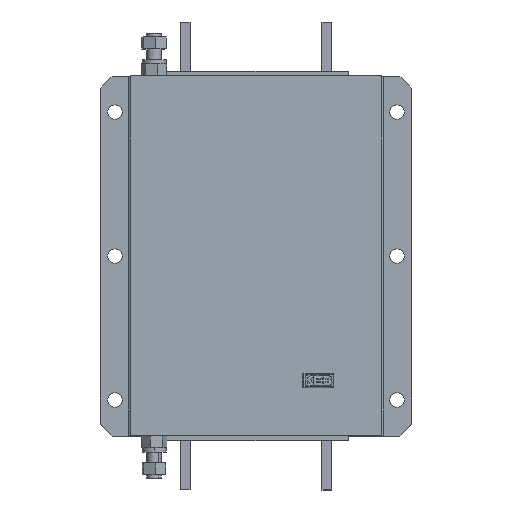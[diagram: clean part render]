
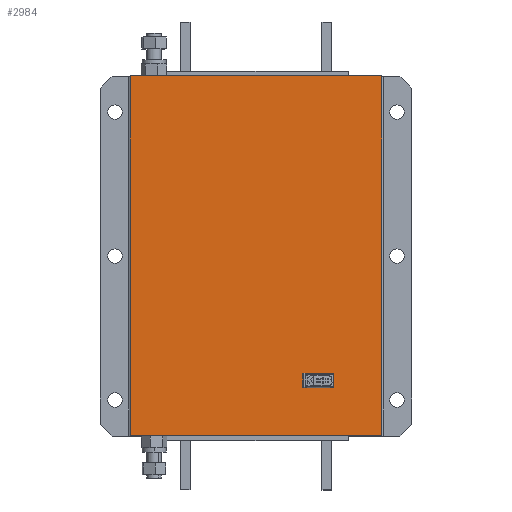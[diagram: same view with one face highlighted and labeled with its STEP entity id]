
A CAD part, top view. The second image highlights one B-rep face of the part: STEP entity #2984.
In plain terms, the highlighted planar face has unit normal (0, 0, 1).
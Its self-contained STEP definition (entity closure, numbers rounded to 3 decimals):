
#54 = EDGE_CURVE ( 'NONE', #1265, #677, #447, .T. ) ;
#58 = VERTEX_POINT ( 'NONE', #4639 ) ;
#160 = ORIENTED_EDGE ( 'NONE', *, *, #2980, .F. ) ;
#241 = DIRECTION ( 'NONE',  ( 0., 0., -1. ) ) ;
#399 = EDGE_CURVE ( 'NONE', #58, #5104, #1601, .T. ) ;
#447 = LINE ( 'NONE', #5184, #6709 ) ;
#489 = EDGE_CURVE ( 'NONE', #2375, #661, #5653, .T. ) ;
#661 = VERTEX_POINT ( 'NONE', #1735 ) ;
#667 = CARTESIAN_POINT ( 'NONE',  ( 39., -99., 135. ) ) ;
#677 = VERTEX_POINT ( 'NONE', #667 ) ;
#730 = VECTOR ( 'NONE', #4059, 1000. ) ;
#759 = LINE ( 'NONE', #5915, #1189 ) ;
#1083 = DIRECTION ( 'NONE',  ( 0., -1., 0. ) ) ;
#1189 = VECTOR ( 'NONE', #5391, 1000. ) ;
#1265 = VERTEX_POINT ( 'NONE', #3692 ) ;
#1299 = ORIENTED_EDGE ( 'NONE', *, *, #2266, .T. ) ;
#1590 = LINE ( 'NONE', #5649, #2514 ) ;
#1601 = CIRCLE ( 'NONE', #2472, 1. ) ;
#1606 = DIRECTION ( 'NONE',  ( 0., -1., 0. ) ) ;
#1655 = ORIENTED_EDGE ( 'NONE', *, *, #1973, .T. ) ;
#1684 = CARTESIAN_POINT ( 'NONE',  ( 64., -110., 135. ) ) ;
#1713 = DIRECTION ( 'NONE',  ( 1., 0., 0. ) ) ;
#1735 = CARTESIAN_POINT ( 'NONE',  ( 105., 150., 135. ) ) ;
#1852 = AXIS2_PLACEMENT_3D ( 'NONE', #4342, #4873, #1713 ) ;
#1855 = CIRCLE ( 'NONE', #6547, 1. ) ;
#1973 = EDGE_CURVE ( 'NONE', #6172, #6264, #2943, .T. ) ;
#1995 = EDGE_CURVE ( 'NONE', #4054, #58, #759, .T. ) ;
#2096 = PLANE ( 'NONE',  #4154 ) ;
#2113 = LINE ( 'NONE', #4239, #5350 ) ;
#2266 = EDGE_CURVE ( 'NONE', #5104, #6172, #2113, .T. ) ;
#2375 = VERTEX_POINT ( 'NONE', #4644 ) ;
#2376 = VECTOR ( 'NONE', #5190, 1000. ) ;
#2400 = EDGE_CURVE ( 'NONE', #2854, #1265, #3170, .T. ) ;
#2435 = DIRECTION ( 'NONE',  ( 1., 0., 0. ) ) ;
#2472 = AXIS2_PLACEMENT_3D ( 'NONE', #6105, #241, #2942 ) ;
#2514 = VECTOR ( 'NONE', #2539, 1000. ) ;
#2539 = DIRECTION ( 'NONE',  ( 1., 0., 0. ) ) ;
#2568 = CARTESIAN_POINT ( 'NONE',  ( 65., -99., 135. ) ) ;
#2665 = ORIENTED_EDGE ( 'NONE', *, *, #6191, .F. ) ;
#2711 = EDGE_LOOP ( 'NONE', ( #2665, #5008, #4761, #160 ) ) ;
#2791 = ORIENTED_EDGE ( 'NONE', *, *, #399, .T. ) ;
#2854 = VERTEX_POINT ( 'NONE', #6638 ) ;
#2861 = LINE ( 'NONE', #4464, #6054 ) ;
#2930 = VERTEX_POINT ( 'NONE', #5714 ) ;
#2942 = DIRECTION ( 'NONE',  ( 1., 0., 0. ) ) ;
#2943 = CIRCLE ( 'NONE', #5218, 1. ) ;
#2980 = EDGE_CURVE ( 'NONE', #2930, #661, #1590, .T. ) ;
#2984 = ADVANCED_FACE ( 'NONE', ( #4624, #4190 ), #2096, .T. ) ;
#2998 = ORIENTED_EDGE ( 'NONE', *, *, #54, .T. ) ;
#3136 = ORIENTED_EDGE ( 'NONE', *, *, #5173, .T. ) ;
#3170 = CIRCLE ( 'NONE', #1852, 1. ) ;
#3199 = EDGE_CURVE ( 'NONE', #677, #4054, #1855, .T. ) ;
#3225 = LINE ( 'NONE', #5669, #2376 ) ;
#3295 = CARTESIAN_POINT ( 'NONE',  ( 64., -109., 135. ) ) ;
#3509 = VERTEX_POINT ( 'NONE', #3718 ) ;
#3692 = CARTESIAN_POINT ( 'NONE',  ( 39., -109., 135. ) ) ;
#3706 = DIRECTION ( 'NONE',  ( 0., 0., 1. ) ) ;
#3718 = CARTESIAN_POINT ( 'NONE',  ( -105., -150., 135. ) ) ;
#3768 = CARTESIAN_POINT ( 'NONE',  ( 40., -98., 135. ) ) ;
#3813 = EDGE_LOOP ( 'NONE', ( #2998, #6067, #4699, #2791, #1299, #1655, #3136, #5583 ) ) ;
#3840 = DIRECTION ( 'NONE',  ( -1., 0., 0. ) ) ;
#4054 = VERTEX_POINT ( 'NONE', #3768 ) ;
#4059 = DIRECTION ( 'NONE',  ( 0., 1., 0. ) ) ;
#4154 = AXIS2_PLACEMENT_3D ( 'NONE', #4593, #3706, #1083 ) ;
#4190 = FACE_BOUND ( 'NONE', #3813, .T. ) ;
#4229 = VECTOR ( 'NONE', #4716, 1000. ) ;
#4239 = CARTESIAN_POINT ( 'NONE',  ( 65., -109., 135. ) ) ;
#4342 = CARTESIAN_POINT ( 'NONE',  ( 40., -109., 135. ) ) ;
#4464 = CARTESIAN_POINT ( 'NONE',  ( -105., -402.035, 135. ) ) ;
#4555 = CARTESIAN_POINT ( 'NONE',  ( 40., -99., 135. ) ) ;
#4593 = CARTESIAN_POINT ( 'NONE',  ( -105., -402.035, 135. ) ) ;
#4624 = FACE_OUTER_BOUND ( 'NONE', #2711, .T. ) ;
#4639 = CARTESIAN_POINT ( 'NONE',  ( 64., -98., 135. ) ) ;
#4644 = CARTESIAN_POINT ( 'NONE',  ( 105., -150., 135. ) ) ;
#4699 = ORIENTED_EDGE ( 'NONE', *, *, #1995, .T. ) ;
#4716 = DIRECTION ( 'NONE',  ( -1., 0., 0. ) ) ;
#4761 = ORIENTED_EDGE ( 'NONE', *, *, #489, .T. ) ;
#4873 = DIRECTION ( 'NONE',  ( 0., 0., -1. ) ) ;
#4961 = DIRECTION ( 'NONE',  ( 0., 0., -1. ) ) ;
#5008 = ORIENTED_EDGE ( 'NONE', *, *, #5097, .T. ) ;
#5097 = EDGE_CURVE ( 'NONE', #3509, #2375, #3225, .T. ) ;
#5104 = VERTEX_POINT ( 'NONE', #2568 ) ;
#5112 = CARTESIAN_POINT ( 'NONE',  ( 105., -402.035, 135. ) ) ;
#5173 = EDGE_CURVE ( 'NONE', #6264, #2854, #5225, .T. ) ;
#5184 = CARTESIAN_POINT ( 'NONE',  ( 39., -109., 135. ) ) ;
#5190 = DIRECTION ( 'NONE',  ( 1., 0., 0. ) ) ;
#5218 = AXIS2_PLACEMENT_3D ( 'NONE', #3295, #6394, #3840 ) ;
#5225 = LINE ( 'NONE', #5771, #4229 ) ;
#5350 = VECTOR ( 'NONE', #1606, 1000. ) ;
#5391 = DIRECTION ( 'NONE',  ( 1., 0., 0. ) ) ;
#5583 = ORIENTED_EDGE ( 'NONE', *, *, #2400, .T. ) ;
#5649 = CARTESIAN_POINT ( 'NONE',  ( -105., 150., 135. ) ) ;
#5653 = LINE ( 'NONE', #5112, #730 ) ;
#5669 = CARTESIAN_POINT ( 'NONE',  ( -105., -150., 135. ) ) ;
#5714 = CARTESIAN_POINT ( 'NONE',  ( -105., 150., 135. ) ) ;
#5771 = CARTESIAN_POINT ( 'NONE',  ( 64., -110., 135. ) ) ;
#5915 = CARTESIAN_POINT ( 'NONE',  ( 64., -98., 135. ) ) ;
#5960 = CARTESIAN_POINT ( 'NONE',  ( 65., -109., 135. ) ) ;
#6054 = VECTOR ( 'NONE', #6541, 1000. ) ;
#6067 = ORIENTED_EDGE ( 'NONE', *, *, #3199, .T. ) ;
#6105 = CARTESIAN_POINT ( 'NONE',  ( 64., -99., 135. ) ) ;
#6172 = VERTEX_POINT ( 'NONE', #5960 ) ;
#6191 = EDGE_CURVE ( 'NONE', #3509, #2930, #2861, .T. ) ;
#6212 = DIRECTION ( 'NONE',  ( 0., 1., 0. ) ) ;
#6264 = VERTEX_POINT ( 'NONE', #1684 ) ;
#6394 = DIRECTION ( 'NONE',  ( 0., 0., -1. ) ) ;
#6541 = DIRECTION ( 'NONE',  ( 0., 1., 0. ) ) ;
#6547 = AXIS2_PLACEMENT_3D ( 'NONE', #4555, #4961, #2435 ) ;
#6638 = CARTESIAN_POINT ( 'NONE',  ( 40., -110., 135. ) ) ;
#6709 = VECTOR ( 'NONE', #6212, 1000. ) ;
